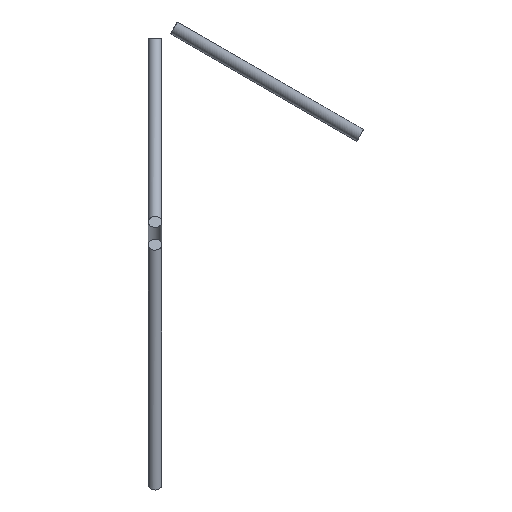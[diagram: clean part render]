
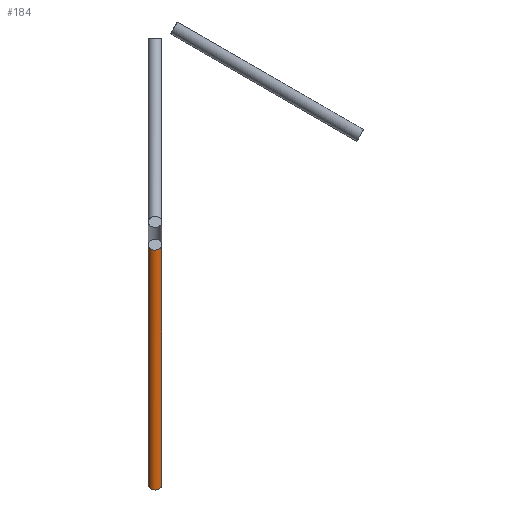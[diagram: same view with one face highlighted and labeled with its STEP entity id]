
A CAD part, left-side view. The second image highlights one B-rep face of the part: STEP entity #184.
In plain terms, the highlighted cylindrical face has radius 5 mm (diameter 10 mm), a full revolution.
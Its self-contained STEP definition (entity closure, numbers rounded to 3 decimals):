
#25=FACE_BOUND('',#66,.T.);
#30=CYLINDRICAL_SURFACE('',#229,5.);
#45=FACE_OUTER_BOUND('',#65,.T.);
#65=EDGE_LOOP('',(#131));
#66=EDGE_LOOP('',(#132));
#79=ELLIPSE('',#226,5.774,5.);
#80=ELLIPSE('',#228,5.774,5.);
#91=VERTEX_POINT('',#328);
#92=VERTEX_POINT('',#331);
#105=EDGE_CURVE('',#91,#91,#79,.T.);
#106=EDGE_CURVE('',#92,#92,#80,.T.);
#131=ORIENTED_EDGE('',*,*,#105,.T.);
#132=ORIENTED_EDGE('',*,*,#106,.T.);
#184=ADVANCED_FACE('',(#45,#25),#30,.T.);
#226=AXIS2_PLACEMENT_3D('',#329,#279,#280);
#228=AXIS2_PLACEMENT_3D('',#332,#283,#284);
#229=AXIS2_PLACEMENT_3D('',#333,#285,#286);
#279=DIRECTION('center_axis',(-0.707,0.,0.707));
#280=DIRECTION('ref_axis',(0.707,0.,0.707));
#283=DIRECTION('center_axis',(0.707,0.,-0.707));
#284=DIRECTION('ref_axis',(0.707,0.,0.707));
#285=DIRECTION('center_axis',(-0.259,0.,0.966));
#286=DIRECTION('ref_axis',(0.966,0.,0.259));
#328=CARTESIAN_POINT('',(-94.758,0.,-363.432));
#329=CARTESIAN_POINT('Origin',(-90.675,0.,
-359.35));
#331=CARTESIAN_POINT('',(-133.801,0.,-179.082));
#332=CARTESIAN_POINT('Origin',(-137.884,0.,-183.165));
#333=CARTESIAN_POINT('Origin',(-114.28,0.,-271.257));
